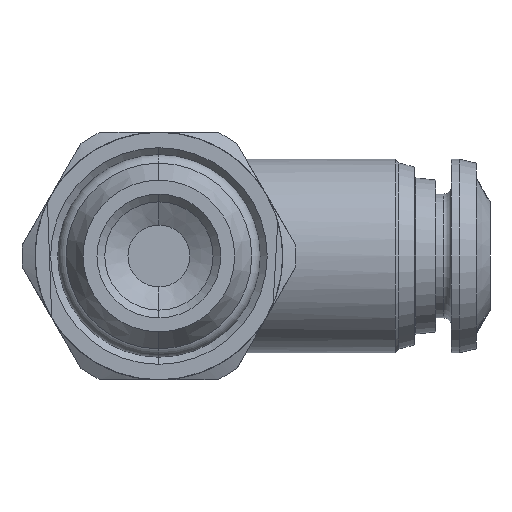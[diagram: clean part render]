
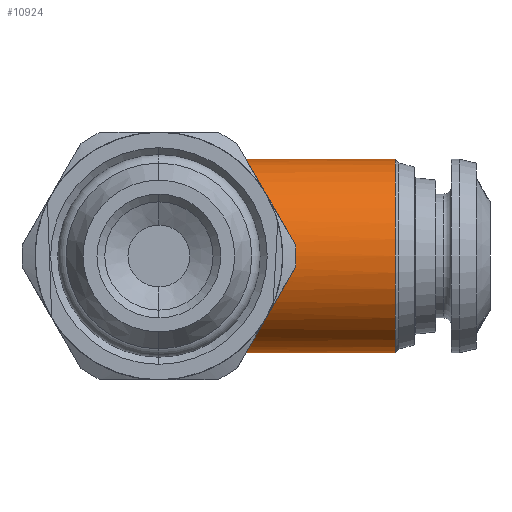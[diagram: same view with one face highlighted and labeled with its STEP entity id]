
A CAD part, front view. The second image highlights one B-rep face of the part: STEP entity #10924.
In plain terms, the highlighted cylindrical face has radius 6.25 mm (diameter 12.5 mm), a partial arc.
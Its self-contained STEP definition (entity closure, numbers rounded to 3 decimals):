
#58 = EDGE_LOOP ( 'NONE', ( #3199, #3200, #3201, #3202, #3203, #3204, #3205 ) ) ;
#614 = CARTESIAN_POINT ( 'NONE',  ( 4.731, -4.731, 4.884 ) ) ;
#616 = CARTESIAN_POINT ( 'NONE',  ( 2.228, -2.228, 5.839 ) ) ;
#619 = CARTESIAN_POINT ( 'NONE',  ( 6.25, -6.25, 2.678 ) ) ;
#620 = CARTESIAN_POINT ( 'NONE',  ( 6.25, -6.25, 0. ) ) ;
#636 = CARTESIAN_POINT ( 'NONE',  ( 0., 0., -6.25 ) ) ;
#923 =( BOUNDED_CURVE ( )  B_SPLINE_CURVE ( 3, ( #616, #614, #619, #620 ),
 .UNSPECIFIED., .F., .F. ) 
 B_SPLINE_CURVE_WITH_KNOTS ( ( 4, 4 ),
 ( 1.935, 3.142 ),
 .UNSPECIFIED. ) 
 CURVE ( )  GEOMETRIC_REPRESENTATION_ITEM ( )  RATIONAL_B_SPLINE_CURVE ( ( 1., 0.882, 0.882, 1. ) ) 
 REPRESENTATION_ITEM ( '' )  );
#1730 = VERTEX_POINT ( 'NONE', #6680 ) ;
#1734 = VERTEX_POINT ( 'NONE', #6694 ) ;
#1738 = VERTEX_POINT ( 'NONE', #6697 ) ;
#1739 = VERTEX_POINT ( 'NONE', #6698 ) ;
#2087 =( BOUNDED_CURVE ( )  B_SPLINE_CURVE ( 3, ( #13016, #13017, #13022, #13023 ),
 .UNSPECIFIED., .F., .F. ) 
 B_SPLINE_CURVE_WITH_KNOTS ( ( 4, 4 ),
 ( 4.712, 5.077 ),
 .UNSPECIFIED. ) 
 CURVE ( )  GEOMETRIC_REPRESENTATION_ITEM ( )  RATIONAL_B_SPLINE_CURVE ( ( 1., 0.989, 0.989, 1. ) ) 
 REPRESENTATION_ITEM ( '' )  );
#2088 =( BOUNDED_CURVE ( )  B_SPLINE_CURVE ( 3, ( #13012, #13021, #13026, #13027 ),
 .UNSPECIFIED., .F., .F. ) 
 B_SPLINE_CURVE_WITH_KNOTS ( ( 4, 4 ),
 ( 3.142, 4.348 ),
 .UNSPECIFIED. ) 
 CURVE ( )  GEOMETRIC_REPRESENTATION_ITEM ( )  RATIONAL_B_SPLINE_CURVE ( ( 1., 0.882, 0.882, 1. ) ) 
 REPRESENTATION_ITEM ( '' )  );
#2089 =( BOUNDED_CURVE ( )  B_SPLINE_CURVE ( 3, ( #13024, #13025, #13028, #13029 ),
 .UNSPECIFIED., .F., .F. ) 
 B_SPLINE_CURVE_WITH_KNOTS ( ( 4, 4 ),
 ( 1.206, 1.571 ),
 .UNSPECIFIED. ) 
 CURVE ( )  GEOMETRIC_REPRESENTATION_ITEM ( )  RATIONAL_B_SPLINE_CURVE ( ( 1., 0.989, 0.989, 1. ) ) 
 REPRESENTATION_ITEM ( '' )  );
#2231 = VERTEX_POINT ( 'NONE', #6388 ) ;
#2645 = CARTESIAN_POINT ( 'NONE',  ( 2.825, 0., 6.25 ) ) ;
#2662 = CARTESIAN_POINT ( 'NONE',  ( 2.228, -2.228, -5.839 ) ) ;
#3199 = ORIENTED_EDGE ( 'NONE', *, *, #4706, .F. ) ;
#3200 = ORIENTED_EDGE ( 'NONE', *, *, #8951, .T. ) ;
#3201 = ORIENTED_EDGE ( 'NONE', *, *, #4711, .T. ) ;
#3202 = ORIENTED_EDGE ( 'NONE', *, *, #8952, .T. ) ;
#3203 = ORIENTED_EDGE ( 'NONE', *, *, #4699, .T. ) ;
#3204 = ORIENTED_EDGE ( 'NONE', *, *, #8953, .T. ) ;
#3205 = ORIENTED_EDGE ( 'NONE', *, *, #8954, .T. ) ;
#4376 = AXIS2_PLACEMENT_3D ( 'NONE', #13018, #13019, #13020 ) ;
#4699 = EDGE_CURVE ( 'NONE', #1734, #1730, #923, .T. ) ;
#4706 = EDGE_CURVE ( 'NONE', #1739, #2231, #7266, .T. ) ;
#4711 = EDGE_CURVE ( 'NONE', #1738, #10604, #7268, .T. ) ;
#4818 = FACE_OUTER_BOUND ( 'NONE', #58, .T. ) ;
#4826 = CYLINDRICAL_SURFACE ( 'NONE', #5944, 6.25 ) ;
#5944 = AXIS2_PLACEMENT_3D ( 'NONE', #8420, #8409, #8428 ) ;
#6388 = CARTESIAN_POINT ( 'NONE',  ( 2.825, 0., -6.25 ) ) ;
#6680 = CARTESIAN_POINT ( 'NONE',  ( 6.25, -6.25, 0. ) ) ;
#6694 = CARTESIAN_POINT ( 'NONE',  ( 2.228, -2.228, 5.839 ) ) ;
#6697 = CARTESIAN_POINT ( 'NONE',  ( 15.268, 0., 6.25 ) ) ;
#6698 = CARTESIAN_POINT ( 'NONE',  ( 15.268, 0., -6.25 ) ) ;
#7266 = LINE ( 'NONE', #636, #7271 ) ;
#7268 = LINE ( 'NONE', #11411, #7270 ) ;
#7270 = VECTOR ( 'NONE', #11414, 1000. ) ;
#7271 = VECTOR ( 'NONE', #11396, 1000. ) ;
#7402 = CIRCLE ( 'NONE', #4376, 6.25 ) ;
#8409 = DIRECTION ( 'NONE',  ( -1., 0., 0. ) ) ;
#8420 = CARTESIAN_POINT ( 'NONE',  ( 0., 0., 0. ) ) ;
#8428 = DIRECTION ( 'NONE',  ( 0., 0., 1. ) ) ;
#8951 = EDGE_CURVE ( 'NONE', #1739, #1738, #7402, .T. ) ;
#8952 = EDGE_CURVE ( 'NONE', #10604, #1734, #2087, .T. ) ;
#8953 = EDGE_CURVE ( 'NONE', #1730, #10704, #2088, .T. ) ;
#8954 = EDGE_CURVE ( 'NONE', #10704, #2231, #2089, .T. ) ;
#10604 = VERTEX_POINT ( 'NONE', #2645 ) ;
#10704 = VERTEX_POINT ( 'NONE', #2662 ) ;
#10924 = ADVANCED_FACE ( 'NONE', ( #4818 ), #4826, .T. ) ;
#11396 = DIRECTION ( 'NONE',  ( -1., 0., 0. ) ) ;
#11411 = CARTESIAN_POINT ( 'NONE',  ( 0., 0., 6.25 ) ) ;
#11414 = DIRECTION ( 'NONE',  ( -1., 0., 0. ) ) ;
#13012 = CARTESIAN_POINT ( 'NONE',  ( 6.25, -6.25, 0. ) ) ;
#13016 = CARTESIAN_POINT ( 'NONE',  ( 2.825, 0., 6.25 ) ) ;
#13017 = CARTESIAN_POINT ( 'NONE',  ( 2.621, -0.764, 6.25 ) ) ;
#13018 = CARTESIAN_POINT ( 'NONE',  ( 15.268, 0., 0. ) ) ;
#13019 = DIRECTION ( 'NONE',  ( -1., 0., 0. ) ) ;
#13020 = DIRECTION ( 'NONE',  ( 0., 0., 1. ) ) ;
#13021 = CARTESIAN_POINT ( 'NONE',  ( 6.25, -6.25, -2.678 ) ) ;
#13022 = CARTESIAN_POINT ( 'NONE',  ( 2.419, -1.515, 6.112 ) ) ;
#13023 = CARTESIAN_POINT ( 'NONE',  ( 2.228, -2.228, 5.839 ) ) ;
#13024 = CARTESIAN_POINT ( 'NONE',  ( 2.228, -2.228, -5.839 ) ) ;
#13025 = CARTESIAN_POINT ( 'NONE',  ( 2.419, -1.515, -6.112 ) ) ;
#13026 = CARTESIAN_POINT ( 'NONE',  ( 4.731, -4.731, -4.884 ) ) ;
#13027 = CARTESIAN_POINT ( 'NONE',  ( 2.228, -2.228, -5.839 ) ) ;
#13028 = CARTESIAN_POINT ( 'NONE',  ( 2.621, -0.764, -6.25 ) ) ;
#13029 = CARTESIAN_POINT ( 'NONE',  ( 2.825, 0., -6.25 ) ) ;
